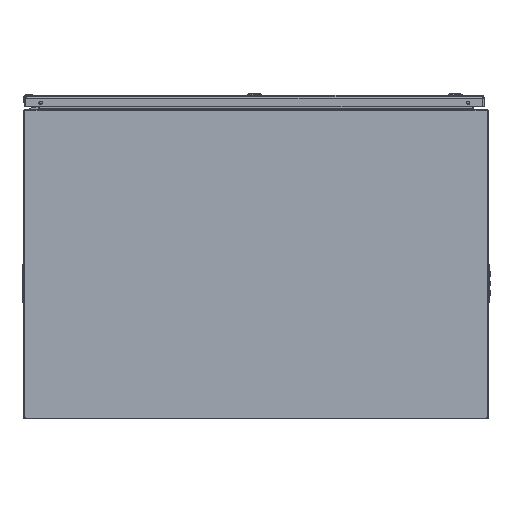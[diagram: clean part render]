
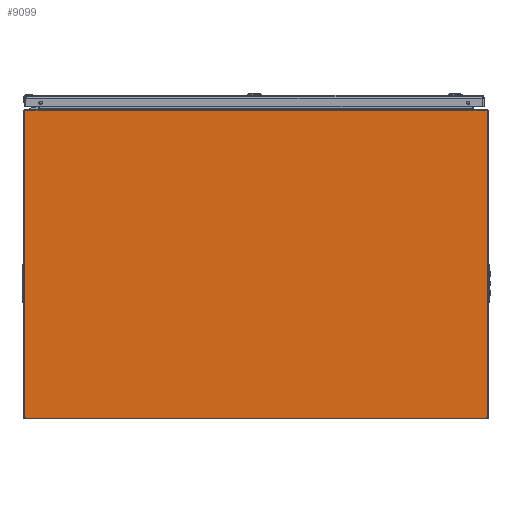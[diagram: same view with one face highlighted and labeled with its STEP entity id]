
A CAD part, front view. The second image highlights one B-rep face of the part: STEP entity #9099.
In plain terms, the highlighted planar face has unit normal (0, -1, 0).
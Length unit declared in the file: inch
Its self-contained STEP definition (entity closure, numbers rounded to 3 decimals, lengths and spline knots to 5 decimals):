
#8202=CARTESIAN_POINT('',(17.887,0.,11.897));
#8203=DIRECTION('',(0.,-1.,0.));
#8204=DIRECTION('',(1.,0.,0.));
#8205=AXIS2_PLACEMENT_3D('',#8202,#8203,#8204);
#8210=DIRECTION('',(0.,0.,-1.));
#8211=VECTOR('',#8210,23.764);
#8212=CARTESIAN_POINT('',(17.967,0.,11.897));
#8213=LINE('',#8212,#8211);
#8217=CARTESIAN_POINT('',(17.887,0.,-11.867));
#8218=DIRECTION('',(0.,-1.,0.));
#8219=DIRECTION('',(0.,0.,-1.));
#8220=AXIS2_PLACEMENT_3D('',#8217,#8218,#8219);
#8225=CARTESIAN_POINT('',(-17.887,0.,-11.867));
#8226=DIRECTION('',(0.,-1.,0.));
#8227=DIRECTION('',(-1.,0.,0.));
#8228=AXIS2_PLACEMENT_3D('',#8225,#8226,#8227);
#8233=DIRECTION('',(0.,0.,1.));
#8234=VECTOR('',#8233,23.764);
#8235=CARTESIAN_POINT('',(-17.967,0.,-11.867));
#8236=LINE('',#8235,#8234);
#8240=CARTESIAN_POINT('',(-17.887,0.,11.897));
#8241=DIRECTION('',(0.,-1.,0.));
#8242=DIRECTION('',(0.,0.,1.));
#8243=AXIS2_PLACEMENT_3D('',#8240,#8241,#8242);
#8255=DIRECTION('',(-1.,0.,0.));
#8256=VECTOR('',#8255,1.062);
#8257=CARTESIAN_POINT('',(17.887,0.,11.977));
#8258=LINE('',#8257,#8256);
#8283=DIRECTION('',(0.,0.,-1.));
#8284=VECTOR('',#8283,0.094);
#8285=CARTESIAN_POINT('',(16.825,0.,11.977));
#8286=LINE('',#8285,#8284);
#8426=DIRECTION('',(1.,0.,0.));
#8427=VECTOR('',#8426,33.65);
#8428=CARTESIAN_POINT('',(-16.825,0.,11.883));
#8429=LINE('',#8428,#8427);
#8470=DIRECTION('',(0.,0.,1.));
#8471=VECTOR('',#8470,0.094);
#8472=CARTESIAN_POINT('',(-16.825,0.,11.883));
#8473=LINE('',#8472,#8471);
#8505=DIRECTION('',(-1.,0.,0.));
#8506=VECTOR('',#8505,1.062);
#8507=CARTESIAN_POINT('',(-16.825,0.,11.977));
#8508=LINE('',#8507,#8506);
#8547=DIRECTION('',(1.,0.,0.));
#8548=VECTOR('',#8547,35.774);
#8549=CARTESIAN_POINT('',(-17.887,0.,-11.947));
#8550=LINE('',#8549,#8548);
#8952=CARTESIAN_POINT('',(-16.825,0.,11.883));
#8953=CARTESIAN_POINT('',(16.825,0.,11.883));
#8954=VERTEX_POINT('',#8952);
#8955=VERTEX_POINT('',#8953);
#9028=CARTESIAN_POINT('',(16.825,0.,11.977));
#9030=VERTEX_POINT('',#9028);
#9032=CARTESIAN_POINT('',(-16.825,0.,11.977));
#9034=VERTEX_POINT('',#9032);
#9036=CARTESIAN_POINT('',(17.967,0.,11.897));
#9037=CARTESIAN_POINT('',(17.887,0.,11.977));
#9038=VERTEX_POINT('',#9036);
#9039=VERTEX_POINT('',#9037);
#9044=CARTESIAN_POINT('',(17.887,0.,-11.947));
#9045=CARTESIAN_POINT('',(17.967,0.,-11.867));
#9046=VERTEX_POINT('',#9044);
#9047=VERTEX_POINT('',#9045);
#9052=CARTESIAN_POINT('',(-17.967,0.,-11.867));
#9053=CARTESIAN_POINT('',(-17.887,0.,-11.947));
#9054=VERTEX_POINT('',#9052);
#9055=VERTEX_POINT('',#9053);
#9060=CARTESIAN_POINT('',(-17.887,0.,11.977));
#9061=CARTESIAN_POINT('',(-17.967,0.,11.897));
#9062=VERTEX_POINT('',#9060);
#9063=VERTEX_POINT('',#9061);
#9068=CARTESIAN_POINT('',(0.,0.,0.));
#9069=DIRECTION('',(0.,-1.,0.));
#9070=DIRECTION('',(-1.,0.,0.));
#9071=AXIS2_PLACEMENT_3D('',#9068,#9069,#9070);
#9072=PLANE('',#9071);
#9074=ORIENTED_EDGE('',*,*,#9073,.F.);
#9076=ORIENTED_EDGE('',*,*,#9075,.T.);
#9078=ORIENTED_EDGE('',*,*,#9077,.F.);
#9080=ORIENTED_EDGE('',*,*,#9079,.F.);
#9082=ORIENTED_EDGE('',*,*,#9081,.F.);
#9084=ORIENTED_EDGE('',*,*,#9083,.T.);
#9086=ORIENTED_EDGE('',*,*,#9085,.F.);
#9088=ORIENTED_EDGE('',*,*,#9087,.F.);
#9090=ORIENTED_EDGE('',*,*,#9089,.F.);
#9092=ORIENTED_EDGE('',*,*,#9091,.T.);
#9094=ORIENTED_EDGE('',*,*,#9093,.F.);
#9096=ORIENTED_EDGE('',*,*,#9095,.F.);
#9097=EDGE_LOOP('',(#9074,#9076,#9078,#9080,#9082,#9084,#9086,#9088,#9090,#9092,
#9094,#9096));
#9098=FACE_OUTER_BOUND('',#9097,.F.);
#8206=CIRCLE('',#8205,0.08);
#8221=CIRCLE('',#8220,0.08);
#8229=CIRCLE('',#8228,0.08);
#8244=CIRCLE('',#8243,0.08);
#9073=EDGE_CURVE('',#9038,#9039,#8206,.T.);
#9075=EDGE_CURVE('',#9038,#9047,#8213,.T.);
#9077=EDGE_CURVE('',#9046,#9047,#8221,.T.);
#9079=EDGE_CURVE('',#9055,#9046,#8550,.T.);
#9081=EDGE_CURVE('',#9054,#9055,#8229,.T.);
#9083=EDGE_CURVE('',#9054,#9063,#8236,.T.);
#9085=EDGE_CURVE('',#9062,#9063,#8244,.T.);
#9087=EDGE_CURVE('',#9034,#9062,#8508,.T.);
#9089=EDGE_CURVE('',#8954,#9034,#8473,.T.);
#9091=EDGE_CURVE('',#8954,#8955,#8429,.T.);
#9093=EDGE_CURVE('',#9030,#8955,#8286,.T.);
#9095=EDGE_CURVE('',#9039,#9030,#8258,.T.);
#9099=ADVANCED_FACE('',(#9098),#9072,.T.);
